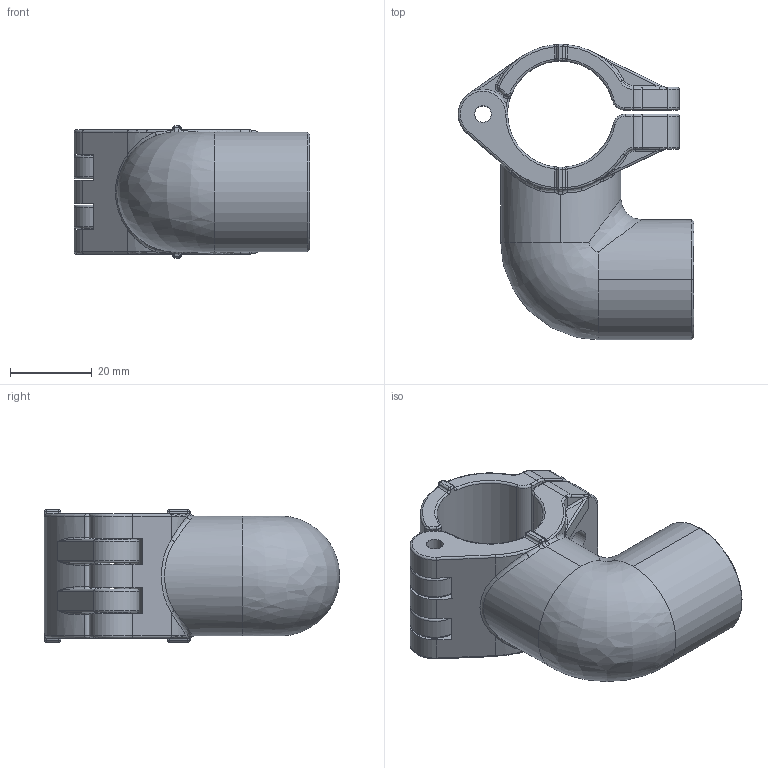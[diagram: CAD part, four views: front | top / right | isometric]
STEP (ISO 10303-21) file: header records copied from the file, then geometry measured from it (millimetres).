
FILE_DESCRIPTION((''),'2;1');
FILE_NAME('AU15201100_ASM_3_ASM','2017-05-15T',('Administrator'),(''),'PRO/ENGINEER BY PARAMETRIC TECHNOLOGY CORPORATION, 2009360','PRO/ENGINEER BY PARAMETRIC TECHNOLOGY CORPORATION, 2009360','');
FILE_SCHEMA(('AUTOMOTIVE_DESIGN_CC2 { 1 2 10303 214 -1 1 5 2 }'));
Length unit declared in the file: millimetre
Products named in the file (3): MANIFOLD_SOLID_BREP_101_1; MANIFOLD_SOLID_BREP_102_1; AU15201100_ASM_3_ASM
Assembly tree (2 placements, depth 2):
  AU15201100_ASM_3_ASM
    MANIFOLD_SOLID_BREP_101_1
    MANIFOLD_SOLID_BREP_102_1
Bounding box: 57.85 x 72.41 x 32.48 mm (x, y, z)
Volume: 44253.2 mm3; surface area: 17985.7 mm2
Topology: 2 solids, 2 shells, 390 faces, 971 edges, 556 vertices
Faces by surface type: cylinder 134, torus 94, bspline 84, plane 52, sphere 16, cone 10
Entity records: 19940 total; most frequent: CARTESIAN_POINT 8279, ORIENTED_EDGE 1878, DIRECTION 1855, PRESENTATION_STYLE_ASSIGNMENT 941, STYLED_ITEM 941, CURVE_STYLE 939, EDGE_CURVE 939, AXIS2_PLACEMENT_3D 816
